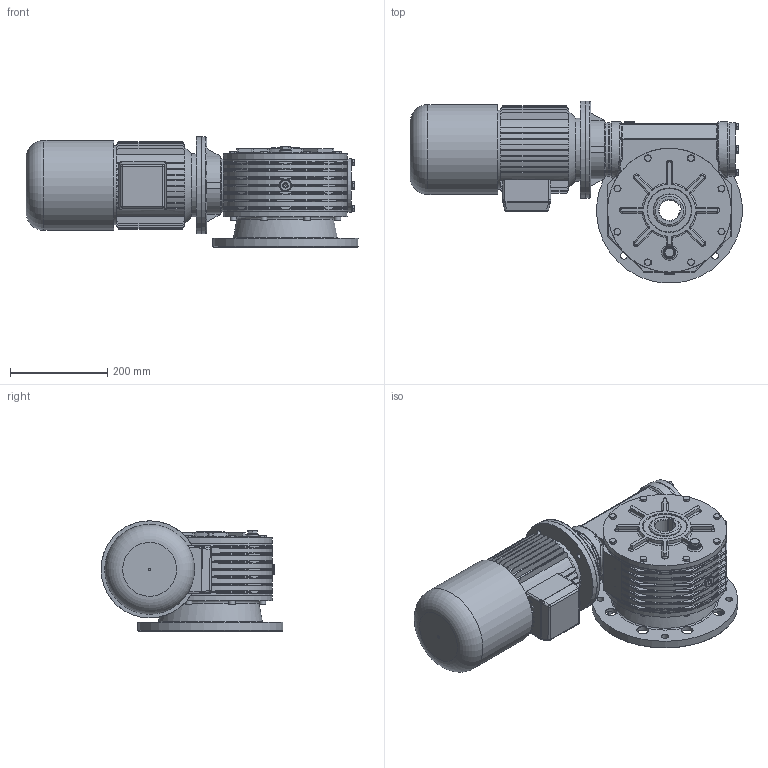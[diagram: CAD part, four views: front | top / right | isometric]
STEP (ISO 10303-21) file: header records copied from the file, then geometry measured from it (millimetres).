
FILE_DESCRIPTION((''),'2;1');
FILE_NAME('Y:\Archivi Inventor\Prog_01\GRAND_60\FIGURINI\MRV60 sito\90S AUTOFRENANTE\MRV60_F2_90S_B5.stp','2013-02-08T11:36:30',('tech3'),(''),'Autodesk Inventor 2013','Autodesk Inventor 2013','');
FILE_SCHEMA(('AUTOMOTIVE_DESIGN { 1 0 10303 214 1 1 1 1 }'));
Length unit declared in the file: millimetre
Products named in the file (19): MRV60_90S_90L_B5; MRV60_FIG; 0106001.A0 figurino; 0106009; UNI 5739 M8 x 20; figurino corona; PARAOLIO 65x90x10; 0106028; 0106029; UNI 5739 M8 x 25; Guarnizione 3_8 GAS; Tappo3_8 GAS; Tappo 3_8 GAS_esagn_incsst; DIN EN ISO 4762 M8 x 16; 0106002.A0 figurino; 0106003.A0 figurino; UNI 8839 A 8; 0106006; motori B5 brake 90S
Assembly tree (47 placements, depth 3):
  MRV60_90S_90L_B5
    MRV60_FIG
      0106001.A0 figurino
      0106009
      UNI 5739 M8 x 20  x4
      figurino corona
      PARAOLIO 65x90x10  x2
      0106028
      0106029  x2
      UNI 5739 M8 x 25  x8
      Guarnizione 3_8 GAS  x3
      Tappo3_8 GAS
      Tappo 3_8 GAS_esagn_incsst  x2
      DIN EN ISO 4762 M8 x 16  x12
      0106002.A0 figurino
      0106003.A0 figurino
      UNI 8839 A 8  x4
    0106006
    motori B5 brake 90S
Bounding box: 683.53 x 374.43 x 227.35 mm (x, y, z)
Volume: 14403569 mm3; surface area: 1566673.3 mm2
Topology: 47 solids, 51 shells, 2132 faces, 5199 edges, 3148 vertices
Faces by surface type: plane 953, cylinder 635, bspline 204, cone 161, torus 157, sphere 22
Full cylindrical faces by diameter (mm): 2 x2, 5 x1, 6.647 x24, 8 x26, 8.5 x40, 8.75 x4, 11 x4, 11.5 x4, 11.63 x12, 13 x12, 13.046 x1, 14 x4, 14.95 x3, 16 x4, 16.3 x3, 16.5 x2, 22 x6, 24 x9, 25 x2, 42 x1, 65 x2, 70 x1, 72.881 x2, 80 x5, 83.5 x2, 90 x5, 109.5 x1, 110 x4, 114 x2, 120 x1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
Entity records: 60757 total; most frequent: CARTESIAN_POINT 20239, DIRECTION 8343, ORIENTED_EDGE 7918, EDGE_CURVE 3959, AXIS2_PLACEMENT_3D 3310, VERTEX_POINT 2545, EDGE_LOOP 2090, VECTOR 1723
